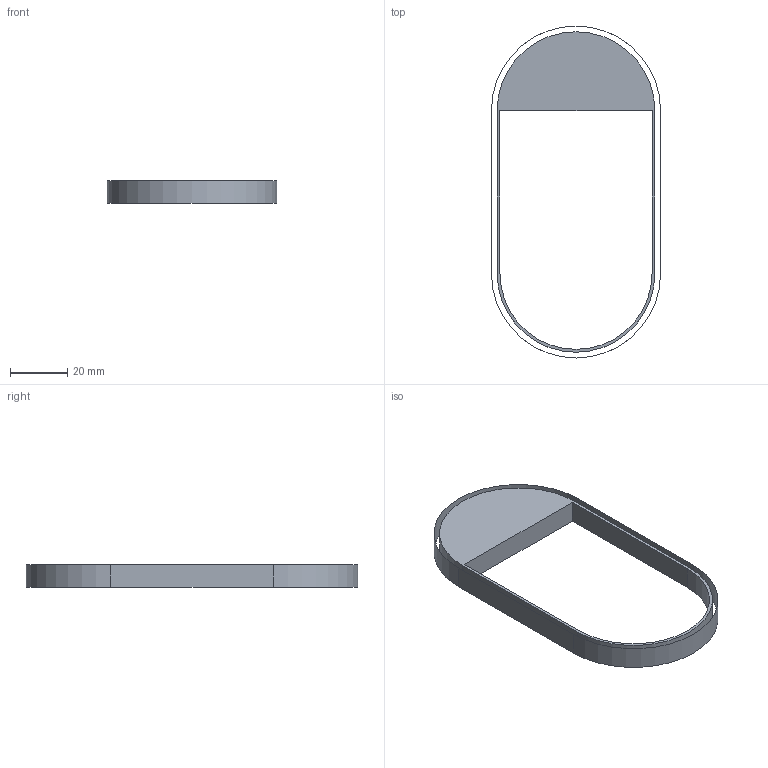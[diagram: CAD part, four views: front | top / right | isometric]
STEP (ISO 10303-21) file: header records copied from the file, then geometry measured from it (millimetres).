
FILE_DESCRIPTION((''),'2;1');
FILE_NAME('BLACK_PRT','2008-06-30T',('GRA'),(''),'PRO/ENGINEER BY PARAMETRIC TECHNOLOGY CORPORATION, 2006170','PRO/ENGINEER BY PARAMETRIC TECHNOLOGY CORPORATION, 2006170','');
FILE_SCHEMA(('CONFIG_CONTROL_DESIGN'));
Length unit declared in the file: millimetre
Products named in the file (1): BLACK_PRT
Bounding box: 59 x 115.7 x 8 mm (x, y, z)
Volume: 11088.9 mm3; surface area: 9449 mm2
Topology: 1 solids, 2 shells, 14 faces, 36 edges, 24 vertices
Faces by surface type: plane 9, cylinder 5
Entity records: 474 total; most frequent: DIRECTION 76, CARTESIAN_POINT 75, ORIENTED_EDGE 64, EDGE_CURVE 36, VECTOR 26, LINE 26, AXIS2_PLACEMENT_3D 25, VERTEX_POINT 24
